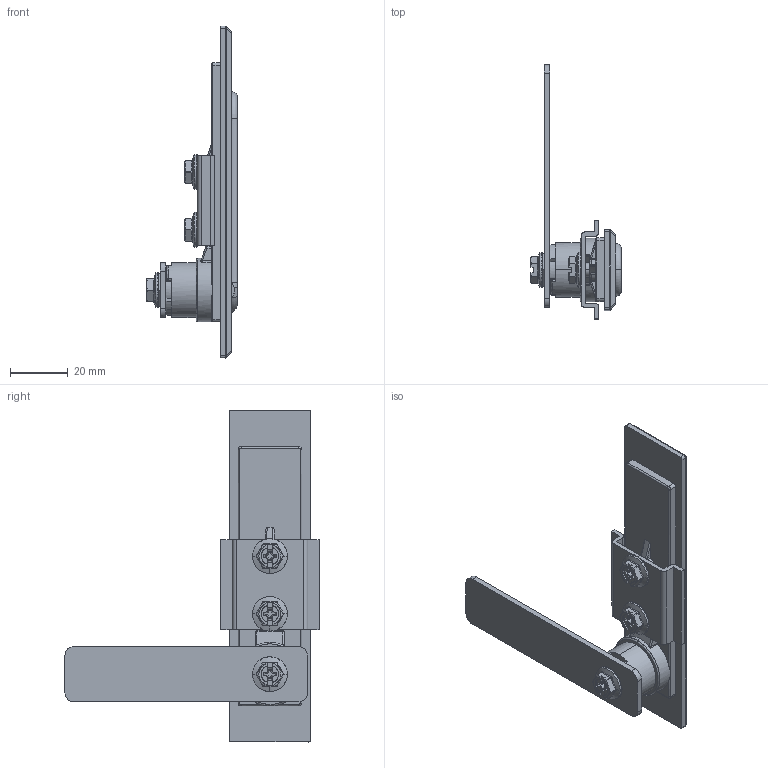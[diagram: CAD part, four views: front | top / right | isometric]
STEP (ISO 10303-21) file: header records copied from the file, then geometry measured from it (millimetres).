
FILE_DESCRIPTION (( 'STEP AP214' ), '1' );
FILE_NAME ('CUYUE.MS717-2.STEP', '2026-07-16T03:19:39', ( '' ), ( '' ), 'SwSTEP 2.0', 'SolidWorks 2020', '' );
FILE_SCHEMA (( 'AUTOMOTIVE_DESIGN' ));
Products named in the file (1): CUYUE.MS717-2
Bounding box: 31.5 x 88 x 115 mm (x, y, z)
Surface area: 24152.8 mm2 (no closed solid volume)
Topology: 0 solids, 1650 shells, 1845 faces, 8588 edges, 8398 vertices
Faces by surface type: bspline 1073, plane 541, cylinder 208, cone 21, torus 2
Entity records: 137983 total; most frequent: CARTESIAN_POINT 88959, ORIENTED_EDGE 9063, EDGE_CURVE 8584, VERTEX_POINT 8398, DIRECTION 4686, B_SPLINE_CURVE_WITH_KNOTS 3805, VECTOR 2374, LINE 2374
